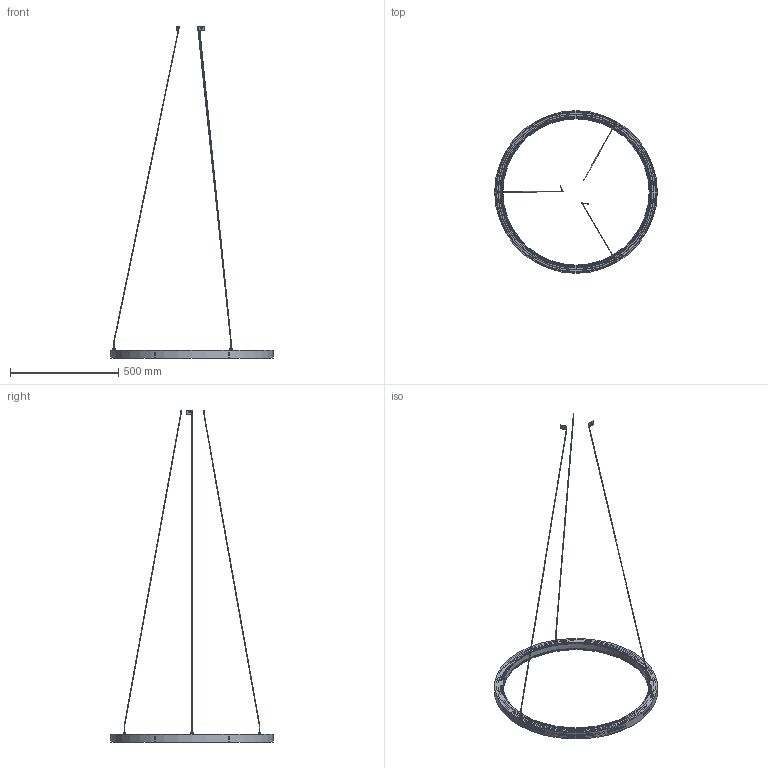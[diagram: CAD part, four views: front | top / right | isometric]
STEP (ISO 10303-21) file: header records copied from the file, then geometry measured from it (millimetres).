
FILE_DESCRIPTION(/* description */ ('Unknown'),/* implementation_level */ '2;1');
FILE_NAME(/* name */ 'TOUR PI 29.5',/* time_stamp */ '2023-01-24T05:32:33-05:00',/* author */ ('Unknown'),/* organization */ ('Unknown'),/* preprocessor_version */ 'ST-DEVELOPER v18.1',/* originating_system */ 'Solid Edge',/* authorisation */ 'Unknown');
FILE_SCHEMA (('AUTOMOTIVE_DESIGN {1 0 10303 214 3 1 1}'));
Length unit declared in the file: millimetre
Products named in the file (1): TOUR PI 29.5
Bounding box: 753 x 753 x 1537 mm (x, y, z)
Volume: 988931.8 mm3; surface area: 881258.5 mm2
Topology: 3 solids, 5 shells, 297 faces, 651 edges, 420 vertices
Faces by surface type: plane 133, cylinder 72, cone 48, torus 44
Full cylindrical faces by diameter (mm): 2.8 x7, 3 x3, 3.5 x2, 4.134 x3, 5 x1, 12.4 x3, 677 x2, 683 x1, 685 x1, 687 x4, 690 x2, 704.2 x2, 718.6 x1, 721.6 x1, 736 x4, 737.1 x1, 739 x4, 746 x3, 753 x1
Entity records: 9522 total; most frequent: CARTESIAN_POINT 1542, DIRECTION 1220, ORIENTED_EDGE 990, AXIS2_PLACEMENT_3D 551, FACE_BOUND 497, EDGE_CURVE 495, EDGE_LOOP 494, VERTEX_POINT 394
